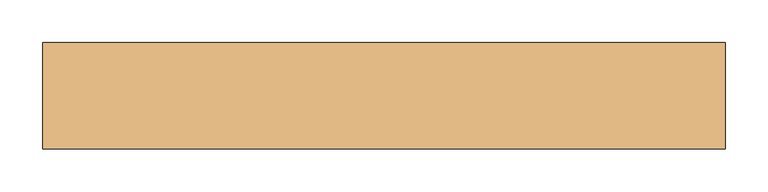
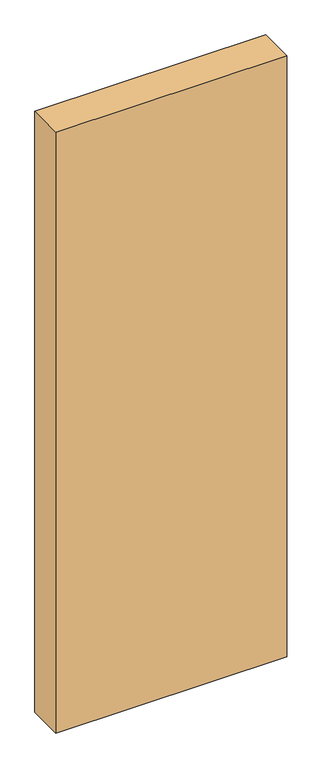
"""IFC4 building model written with IfcOpenShell, lengths in millimetres: door geometry, Dr_Проем-Простой : ДВ."""

from ifc_helpers import new_model, si_unit, frame, origin, place, context, project, spatial, polyline, outline, extrude, source, transform, mapped, element, save


def door_33973896(model_context):
    return source(origin(), model_context, "Body", "SweptSolid", [
        extrude(outline(polyline([(605.3230163, -62.5), (-194.6769837, -62.5), (-194.6769837, 62.5), (605.3230163, 62.5), (605.3230163, -62.5)])), frame((0.0, 0.0, -100.0), z_axis=(0.0, 0.0, 1.0), x_axis=(1.0, 0.0, 0.0)), (0.0, 0.0, 1.0), 2200.0),
    ])


if __name__ == "__main__":
    model = new_model("IFC4")
    model_context = context("Model", 3, world=origin())
    ifc_project = project(units=[si_unit("LENGTHUNIT", "METRE", prefix="MILLI")], contexts=[model_context])
    site = spatial("IfcSite", under=ifc_project)
    building = spatial("IfcBuilding", under=site)
    placement = place(None, origin())
    door_shape = door_33973896(model_context)
    element("IfcDoor", 1, ObjectType="Dr_Проем-Простой : ДВ", at=placement, inside=building, context=model_context, shape_type="MappedRepresentation", body=[
        mapped(door_shape, transform((0.0, 0.0, 0.0), x_axis=(1.0, 0.0, 0.0), y_axis=(0.0, 1.0, 0.0), z_axis=(0.0, 0.0, 1.0))),
    ])
    save(model, "model.ifc")
